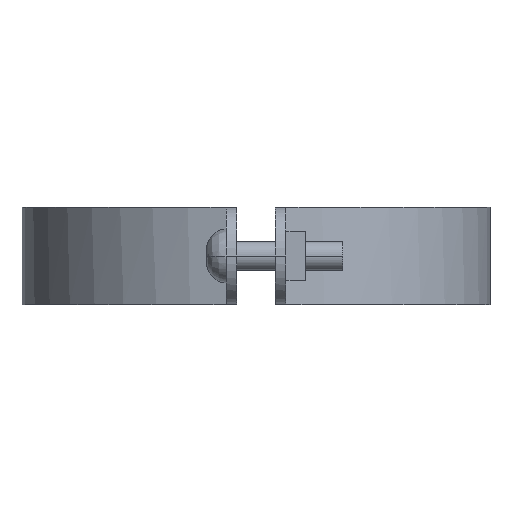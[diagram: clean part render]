
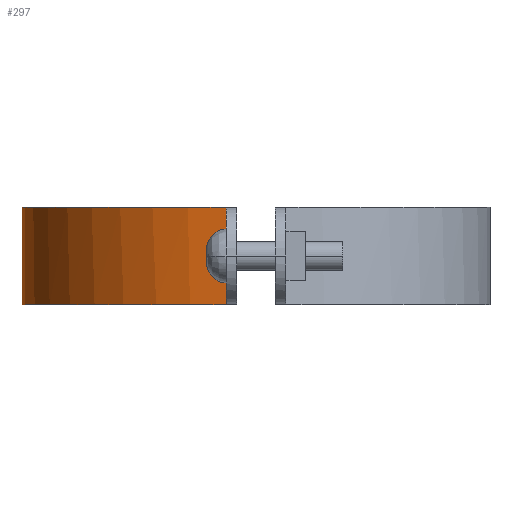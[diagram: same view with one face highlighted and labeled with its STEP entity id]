
A CAD part, left-side view. The second image highlights one B-rep face of the part: STEP entity #297.
In plain terms, the highlighted free-form (B-spline) face has degree [3, 1] with [4, 2] control points.
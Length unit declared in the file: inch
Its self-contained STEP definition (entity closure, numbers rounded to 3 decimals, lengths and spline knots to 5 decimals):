
#297=ADVANCED_FACE('',(#566),#567,.T.);
#566=FACE_OUTER_BOUND('',#1051,.T.);
#567=B_SPLINE_SURFACE_WITH_KNOTS('',3,1,((#1052,#1053),(#1054,#1055),(#1056,#1057),(#1058,#1059)),.UNSPECIFIED.,.F.,.F.,.F.,(4,4),(2,2),(0.0,1.0),(0.0,1.25),.UNSPECIFIED.);
#1051=EDGE_LOOP('',(#1854,#1855,#1856,#1857));
#1052=CARTESIAN_POINT('',(3.68787,5.84815,0.0));
#1053=CARTESIAN_POINT('',(3.68787,5.84815,1.25));
#1054=CARTESIAN_POINT('',(2.17417,5.84815,0.0));
#1055=CARTESIAN_POINT('',(2.17417,5.84815,1.25));
#1056=CARTESIAN_POINT('',(0.89587,4.72411,0.0));
#1057=CARTESIAN_POINT('',(0.89587,4.72411,1.25));
#1058=CARTESIAN_POINT('',(0.70224,3.22283,0.0));
#1059=CARTESIAN_POINT('',(0.70224,3.22283,1.25));
#1854=ORIENTED_EDGE('',*,*,#2099,.T.);
#1855=ORIENTED_EDGE('',*,*,#2217,.F.);
#1856=ORIENTED_EDGE('',*,*,#2218,.T.);
#1857=ORIENTED_EDGE('',*,*,#2123,.T.);
#2099=EDGE_CURVE('',#2439,#2436,#2440,.T.);
#2123=EDGE_CURVE('',#2474,#2439,#2475,.T.);
#2217=EDGE_CURVE('',#2599,#2436,#2600,.T.);
#2218=EDGE_CURVE('',#2599,#2474,#2601,.T.);
#2436=VERTEX_POINT('',#2972);
#2439=VERTEX_POINT('',#2976);
#2440=B_SPLINE_CURVE_WITH_KNOTS('',3,(#2977,#2978,#2979,#2980),.UNSPECIFIED.,.F.,.F.,(4,4),(-1.0,-0.0),.UNSPECIFIED.);
#2474=VERTEX_POINT('',#3041);
#2475=LINE('',#3042,#3043);
#2599=VERTEX_POINT('',#3292);
#2600=LINE('',#3293,#3294);
#2601=B_SPLINE_CURVE_WITH_KNOTS('',3,(#3295,#3296,#3297,#3298),.UNSPECIFIED.,.F.,.F.,(4,4),(0.0,1.0),.UNSPECIFIED.);
#2972=CARTESIAN_POINT('',(3.68787,5.84815,1.24992));
#2976=CARTESIAN_POINT('',(0.70224,3.22283,1.24992));
#2977=CARTESIAN_POINT('',(0.70224,3.22283,1.24992));
#2978=CARTESIAN_POINT('',(0.89587,4.72411,1.24992));
#2979=CARTESIAN_POINT('',(2.17417,5.84815,1.24992));
#2980=CARTESIAN_POINT('',(3.68787,5.84815,1.24992));
#3041=CARTESIAN_POINT('',(0.70224,3.22283,0.00011));
#3042=CARTESIAN_POINT('',(0.70224,3.22283,0.0));
#3043=VECTOR('',#3454,1.0);
#3292=CARTESIAN_POINT('',(3.68787,5.84815,0.00011));
#3293=CARTESIAN_POINT('',(3.68787,5.84815,0.0));
#3294=VECTOR('',#3499,1.0);
#3295=CARTESIAN_POINT('',(3.68787,5.84815,0.00011));
#3296=CARTESIAN_POINT('',(2.17417,5.84815,0.00011));
#3297=CARTESIAN_POINT('',(0.89587,4.72411,0.00011));
#3298=CARTESIAN_POINT('',(0.70224,3.22283,0.00011));
#3454=DIRECTION('',(0.0,0.0,1.0));
#3499=DIRECTION('',(0.0,0.0,1.0));
